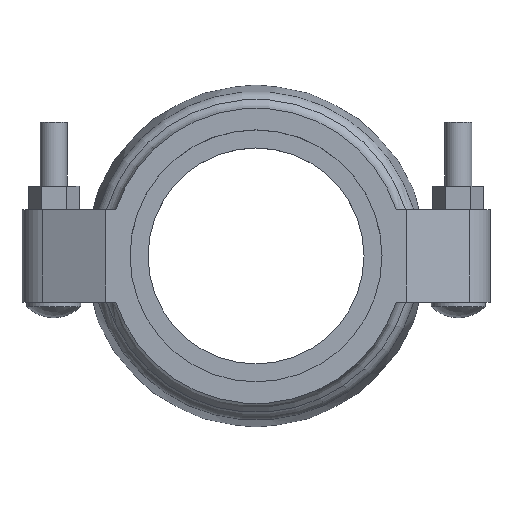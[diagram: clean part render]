
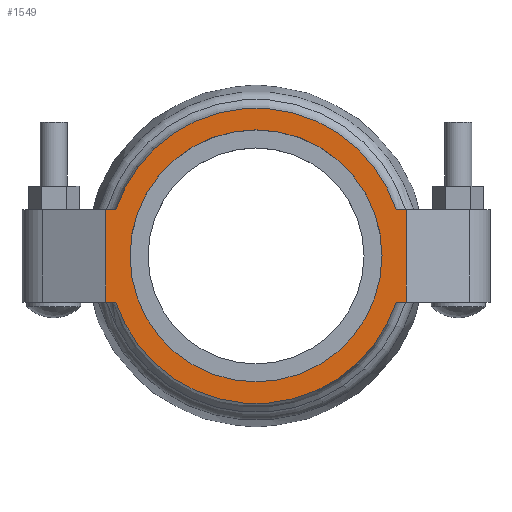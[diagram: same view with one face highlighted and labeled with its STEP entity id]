
A CAD part, top view. The second image highlights one B-rep face of the part: STEP entity #1549.
In plain terms, the highlighted planar face has unit normal (0, 0, 1).
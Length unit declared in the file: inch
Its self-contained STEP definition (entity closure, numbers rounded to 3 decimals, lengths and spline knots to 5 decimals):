
#103=FACE_BOUND('',#301,.T.);
#141=PLANE('',#1695);
#212=FACE_OUTER_BOUND('',#300,.T.);
#300=EDGE_LOOP('',(#1292,#1293,#1294,#1295,#1296,#1297,#1298,#1299));
#301=EDGE_LOOP('',(#1300));
#372=LINE('',#2456,#481);
#384=LINE('',#2585,#493);
#391=LINE('',#2731,#500);
#397=LINE('',#2778,#506);
#406=LINE('',#2851,#515);
#407=LINE('',#2853,#516);
#481=VECTOR('',#1907,0.3937);
#493=VECTOR('',#1939,0.3937);
#500=VECTOR('',#1972,0.3937);
#506=VECTOR('',#1986,0.3937);
#515=VECTOR('',#2007,0.3937);
#516=VECTOR('',#2010,0.3937);
#544=CIRCLE('',#1597,1.75);
#585=CIRCLE('',#1694,2.051);
#586=CIRCLE('',#1696,2.051);
#610=VERTEX_POINT('',#2182);
#669=VERTEX_POINT('',#2440);
#670=VERTEX_POINT('',#2455);
#692=VERTEX_POINT('',#2582);
#693=VERTEX_POINT('',#2584);
#707=VERTEX_POINT('',#2715);
#708=VERTEX_POINT('',#2730);
#718=VERTEX_POINT('',#2775);
#719=VERTEX_POINT('',#2777);
#754=EDGE_CURVE('',#610,#610,#544,.T.);
#834=EDGE_CURVE('',#669,#670,#372,.T.);
#860=EDGE_CURVE('',#692,#693,#384,.T.);
#883=EDGE_CURVE('',#707,#708,#391,.T.);
#894=EDGE_CURVE('',#718,#719,#397,.T.);
#908=EDGE_CURVE('',#708,#718,#406,.T.);
#909=EDGE_CURVE('',#692,#670,#407,.T.);
#920=EDGE_CURVE('',#719,#669,#585,.T.);
#921=EDGE_CURVE('',#693,#707,#586,.T.);
#1292=ORIENTED_EDGE('',*,*,#921,.F.);
#1293=ORIENTED_EDGE('',*,*,#860,.F.);
#1294=ORIENTED_EDGE('',*,*,#909,.T.);
#1295=ORIENTED_EDGE('',*,*,#834,.F.);
#1296=ORIENTED_EDGE('',*,*,#920,.F.);
#1297=ORIENTED_EDGE('',*,*,#894,.F.);
#1298=ORIENTED_EDGE('',*,*,#908,.F.);
#1299=ORIENTED_EDGE('',*,*,#883,.F.);
#1300=ORIENTED_EDGE('',*,*,#754,.T.);
#1549=ADVANCED_FACE('',(#212,#103),#141,.T.);
#1597=AXIS2_PLACEMENT_3D('',#2184,#1765,#1766);
#1694=AXIS2_PLACEMENT_3D('',#2875,#2048,#2049);
#1695=AXIS2_PLACEMENT_3D('',#2876,#2050,#2051);
#1696=AXIS2_PLACEMENT_3D('',#2877,#2052,#2053);
#1765=DIRECTION('center_axis',(0.,0.,-1.));
#1766=DIRECTION('ref_axis',(1.,0.,0.));
#1907=DIRECTION('',(1.,0.,0.));
#1939=DIRECTION('',(-1.,0.,0.));
#1972=DIRECTION('',(-1.,0.,0.));
#1986=DIRECTION('',(1.,0.,0.));
#2007=DIRECTION('',(0.,1.,0.));
#2010=DIRECTION('',(0.,1.,0.));
#2048=DIRECTION('center_axis',(0.,0.,-1.));
#2049=DIRECTION('ref_axis',(-1.,0.,0.));
#2050=DIRECTION('center_axis',(0.,0.,1.));
#2051=DIRECTION('ref_axis',(-1.,0.,0.));
#2052=DIRECTION('center_axis',(0.,0.,-1.));
#2053=DIRECTION('ref_axis',(-1.,0.,0.));
#2182=CARTESIAN_POINT('',(-1.75,0.,1.125));
#2184=CARTESIAN_POINT('Origin',(0.,0.,1.125));
#2440=CARTESIAN_POINT('',(1.94793,0.642,1.125));
#2455=CARTESIAN_POINT('',(2.085,0.642,1.125));
#2456=CARTESIAN_POINT('',(-2.085,0.642,1.125));
#2582=CARTESIAN_POINT('',(2.085,-0.642,1.125));
#2584=CARTESIAN_POINT('',(1.94793,-0.642,1.125));
#2585=CARTESIAN_POINT('',(-2.085,-0.642,1.125));
#2715=CARTESIAN_POINT('',(-1.94793,-0.642,1.125));
#2730=CARTESIAN_POINT('',(-2.085,-0.642,1.125));
#2731=CARTESIAN_POINT('',(-2.085,-0.642,1.125));
#2775=CARTESIAN_POINT('',(-2.085,0.642,1.125));
#2777=CARTESIAN_POINT('',(-1.94793,0.642,1.125));
#2778=CARTESIAN_POINT('',(-2.085,0.642,1.125));
#2851=CARTESIAN_POINT('',(-2.085,0.,1.125));
#2853=CARTESIAN_POINT('',(2.085,0.,1.125));
#2875=CARTESIAN_POINT('Origin',(0.,0.,
1.125));
#2876=CARTESIAN_POINT('Origin',(0.,-2.051,1.125));
#2877=CARTESIAN_POINT('Origin',(0.,0.,
1.125));
